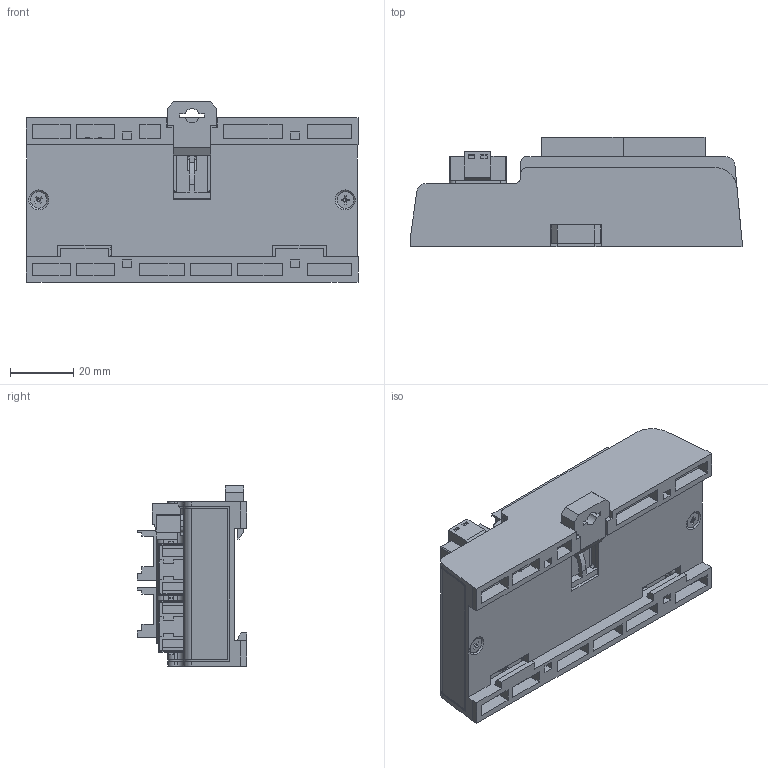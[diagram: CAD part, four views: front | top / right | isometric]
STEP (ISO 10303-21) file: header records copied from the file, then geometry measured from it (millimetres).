
FILE_DESCRIPTION (( 'STEP AP214' ), '1' );
FILE_NAME ('P118-DR-000-01-R00.STEP', '2018-07-25T09:22:29', ( '' ), ( '' ), 'SwSTEP 2.0', 'SolidWorks 2013', '' );
FILE_SCHEMA (( 'AUTOMOTIVE_DESIGN' ));
Length unit declared in the file: millimetre
Products named in the file (20): MC421-38102; 3017615508; countersunk flat cross head screw_ks_KS 1023 FC- M2.6 x 6-N; pan cross head_ks_KS 1023 PC- M2.6 x 6-N; XN2D-4471; 瞪錳蕾樓攪喀攪; 瞪錳薄樓醴喀攪-5; 瞪錳薄樓醴喀攪-4; 瞪錳薄樓醴喀攪-3; 瞪錳薄樓醴喀攪-2; 瞪錳薄樓醴喀攪-1; EtherCAT IO PCB2-02-1; EtherCAT IO PCB1-02-1; M118-DR-000-03-R00; M118-DR-000-02-R00; cheese slotted head_ks_KS 1021 CS - M1.6 x 3-N; M118-DR-000-01-R00; cheese slotted head_ks_KS 1021 CS - M2.5 x 5-N; P118-DR-000-01-R00
Assembly tree (29 placements, depth 3):
  P118-DR-000-01-R00
    M118-DR-000-01-R00
    M118-DR-000-02-R00
    M118-DR-000-03-R00
    EtherCAT IO PCB1-02-1
    EtherCAT IO PCB2-02-1
    瞪錳蕾樓攪喀攪
      瞪錳薄樓醴喀攪-1
      瞪錳薄樓醴喀攪-2
      瞪錳薄樓醴喀攪-3
      瞪錳薄樓醴喀攪-4
      瞪錳薄樓醴喀攪-5
    XN2D-4471  x4
    pan cross head_ks_KS 1023 PC- M2.6 x 6-N  x4
    countersunk flat cross head screw_ks_KS 1023 FC- M2.6 x 6-N  x2
    3017615508  x2
    MC421-38102
      MC421-38102
      cheese slotted head_ks_KS 1021 CS - M2.5 x 5-N  x2
      cheese slotted head_ks_KS 1021 CS - M1.6 x 3-N  x2
Bounding box: 105 x 34.7 x 57 mm (x, y, z)
Volume: 64873.8 mm3; surface area: 71819.6 mm2
Topology: 27 solids, 27 shells, 2089 faces, 5906 edges, 3847 vertices
Faces by surface type: plane 1474, cylinder 453, cone 80, torus 43, sphere 23, bspline 16
Entity records: 46659 total; most frequent: CARTESIAN_POINT 9705, ORIENTED_EDGE 7796, DIRECTION 7134, EDGE_CURVE 3898, VECTOR 3016, LINE 3016, VERTEX_POINT 2556, AXIS2_PLACEMENT_3D 2059
